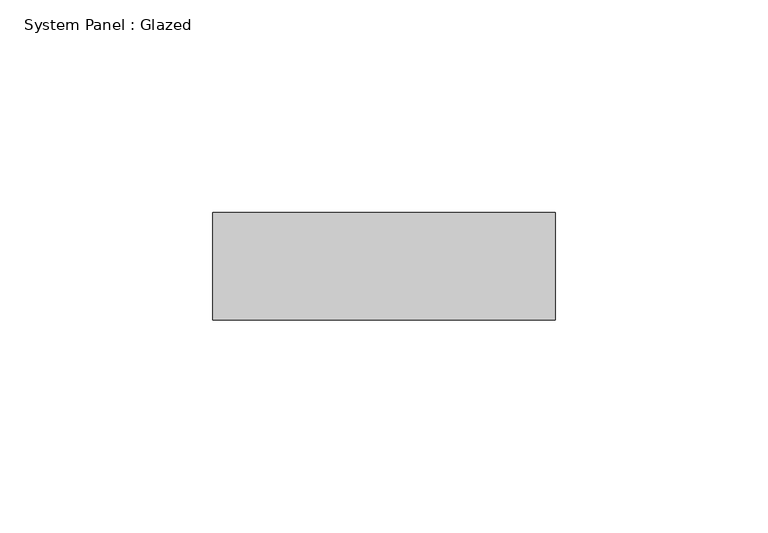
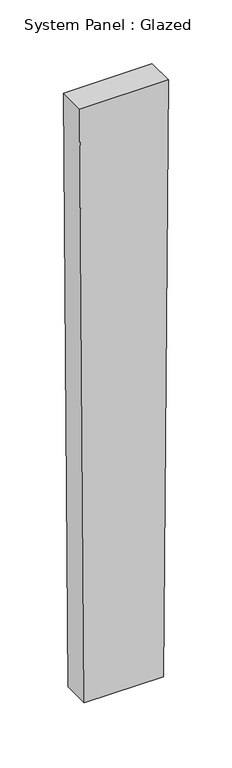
"""IFC4 building model written with IfcOpenShell, lengths in millimetres: plate geometry, System Panel : Glazed."""

from ifc_helpers import new_model, si_unit, frame, origin, place, context, project, spatial, polyline, outline, extrude, source, transform, mapped, element, save


def system_panel_glazed_a0058e6f(model_context):
    return source(origin(), model_context, "Body", "SweptSolid", [
        extrude(outline(polyline([(0.0, -36.1002743), (0.0, 36.1002743), (571.4831587, 40.3483572), (571.4831587, -40.3483572), (0.0, -36.1002743)])), frame((0.0, 19.05, 0.0), z_axis=(0.0, 1.0, 0.0), x_axis=(0.0, 0.0, 1.0)), (0.0, 0.0, 1.0), 25.4),
    ])


if __name__ == "__main__":
    model = new_model("IFC4")
    model_context = context("Model", 3, world=origin())
    ifc_project = project(units=[si_unit("LENGTHUNIT", "METRE", prefix="MILLI")], contexts=[model_context])
    site = spatial("IfcSite", under=ifc_project)
    building = spatial("IfcBuilding", under=site)
    placement = place(None, origin())
    system_panel_glazed_shape = system_panel_glazed_a0058e6f(model_context)
    element("IfcPlate", 1, ObjectType="System Panel : Glazed", at=placement, inside=building, context=model_context, shape_type="MappedRepresentation", body=[
        mapped(system_panel_glazed_shape, transform((0.0, 0.0, 0.0), x_axis=(1.0, 0.0, 0.0), y_axis=(0.0, 1.0, 0.0), z_axis=(0.0, 0.0, 1.0))),
    ])
    save(model, "model.ifc")
